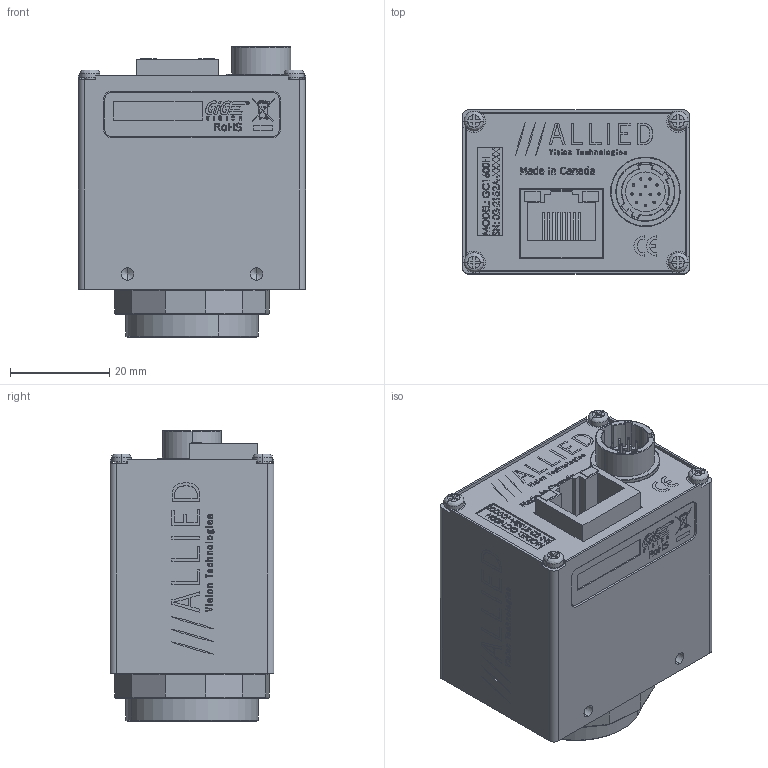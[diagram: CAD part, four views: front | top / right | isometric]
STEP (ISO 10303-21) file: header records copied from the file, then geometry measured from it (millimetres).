
FILE_DESCRIPTION (( 'STEP AP214' ), '1' );
FILE_NAME ('GC1600H.STEP', '2013-07-31T18:17:57', ( '' ), ( '' ), 'SwSTEP 2.0', 'SolidWorks 2013', '' );
FILE_SCHEMA (( 'AUTOMOTIVE_DESIGN' ));
Length unit declared in the file: millimetre
Products named in the file (20): GC1600H; 140017-SCREW PAN M2x4 SS; 110042C GC-CCD FRONT_Finished with logo; 110003AC-CV CMOUNT RING; 140013-washer spring lock M2; 260034-HIROSE HR10A-10R-12PB; 110043A GC BACK PLATE; 110043A GC BACK PLATE - WO HW; 740080A-GC1600H LABEL PRINT; 740032B-GC MAIN LABEL; 200075A-PCB ASSY GC1600H  SENSOR MONO; 220075-SONY ICX274AL; SONY ICX274 BODY; SONY ICX274 WINDOW; 200047A-A GC INTERFACE PCB ASSY; 260033-AMPHENOL RJHS-3381; 110031A-B EC-CCD LOCKING RING; 110045B-EC-CCD DUST SHIELD GASKET; 140023-SCREW SKT CAP M2x10 SS; 740123A-GC MAC LABEL
Assembly tree (24 placements, depth 4):
  GC1600H
    740123A-GC MAC LABEL
    140023-SCREW SKT CAP M2x10 SS  x2
    110045B-EC-CCD DUST SHIELD GASKET
    110031A-B EC-CCD LOCKING RING
    200047A-A GC INTERFACE PCB ASSY
      260033-AMPHENOL RJHS-3381
    200075A-PCB ASSY GC1600H  SENSOR MONO
      220075-SONY ICX274AL
        SONY ICX274 WINDOW
        SONY ICX274 BODY
    740032B-GC MAIN LABEL
    740080A-GC1600H LABEL PRINT
    110043A GC BACK PLATE
      110043A GC BACK PLATE - WO HW
    260034-HIROSE HR10A-10R-12PB
    110003AC-CV CMOUNT RING
    110042C GC-CCD FRONT_Finished with logo
    140017-SCREW PAN M2x4 SS  x4
    140013-washer spring lock M2  x2
Bounding box: 45.72 x 33.02 x 58.54 mm (x, y, z)
Volume: 22030.7 mm3; surface area: 31504.7 mm2
Topology: 20 solids, 20 shells, 3258 faces, 8549 edges, 5542 vertices
Faces by surface type: plane 1876, bspline 912, cylinder 286, cone 184
Entity records: 164404 total; most frequent: CARTESIAN_POINT 57178, ORIENTED_EDGE 16418, DIRECTION 11715, EDGE_CURVE 8209, LINE 5691, VECTOR 5691, VERTEX_POINT 5372, EDGE_LOOP 3483
